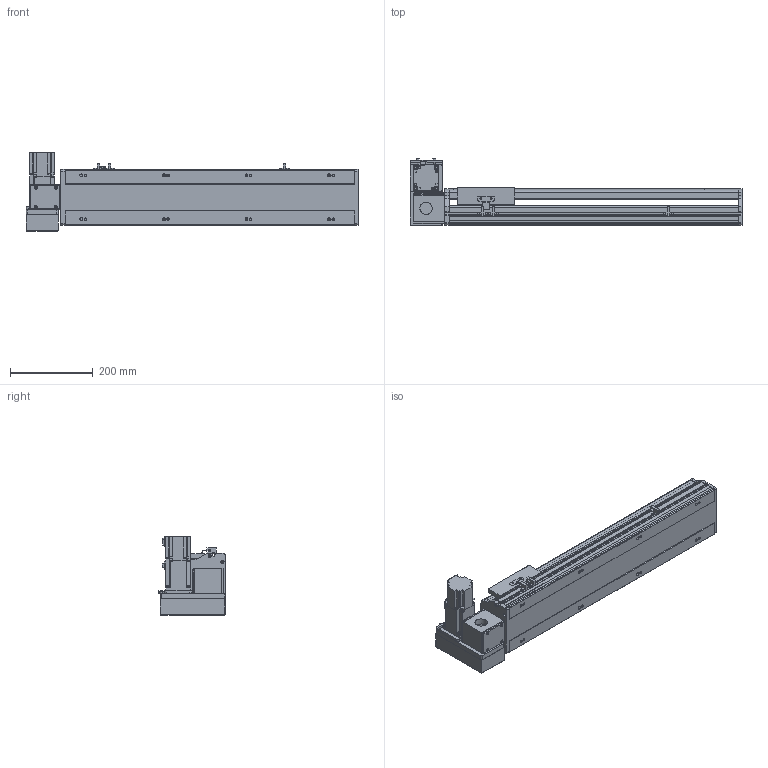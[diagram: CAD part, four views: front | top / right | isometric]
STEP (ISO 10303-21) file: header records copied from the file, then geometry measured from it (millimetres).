
FILE_DESCRIPTION(/* description */ ('STEP AP214'),/* implementation_level */ '2;1');
FILE_NAME(/* name */ 'PBS140S-P40-S450-LU-T40-C1-N(0)',/* time_stamp */ '2022-06-09T02:33:24+02:00',/* author */ ('License CC BY-ND 4.0'),/* organization */ ('CADENAS'),/* preprocessor_version */ 'ST-DEVELOPER v18.102',/* originating_system */ 'PARTsolutions',/* authorisation */ ' ');
FILE_SCHEMA (('AUTOMOTIVE_DESIGN {1 0 10303 214 3 1 1}'));
Length unit declared in the file: millimetre
Products named in the file (7): PBS140S-P40-S450-LU-T40-C1-N(0); PBS140S_sensor; PBS140S_plant; PBS140S_sliser; T40-p1; PBS140ST-LU_motors; PBS140S-S450()_body
Assembly tree (8 placements, depth 2):
  PBS140S-P40-S450-LU-T40-C1-N(0)
    PBS140S_sensor  x3
    PBS140S_plant
    PBS140S_sliser
    T40-p1
    PBS140ST-LU_motors
    PBS140S-S450()_body
Bounding box: 804 x 162.5 x 189.7 mm (x, y, z)
Volume: 4536421.9 mm3; surface area: 808640.8 mm2
Topology: 8 solids, 8 shells, 1035 faces, 2751 edges, 1801 vertices
Faces by surface type: plane 678, cylinder 313, cone 34, sphere 8, torus 2
Full cylindrical faces by diameter (mm): 3.242 x4, 4 x2, 4.134 x4, 4.4 x8, 4.5 x2, 4.8 x4, 4.917 x16, 5.5 x7, 6 x2, 7 x10, 7.5 x8, 8 x12, 8.5 x4, 10.5 x8, 14 x1, 30 x2, 50 x2
Entity records: 29664 total; most frequent: CARTESIAN_POINT 5368, DIRECTION 5068, ORIENTED_EDGE 4822, EDGE_CURVE 2411, AXIS2_PLACEMENT_3D 1739, VERTEX_POINT 1657, LINE 1590, VECTOR 1590
